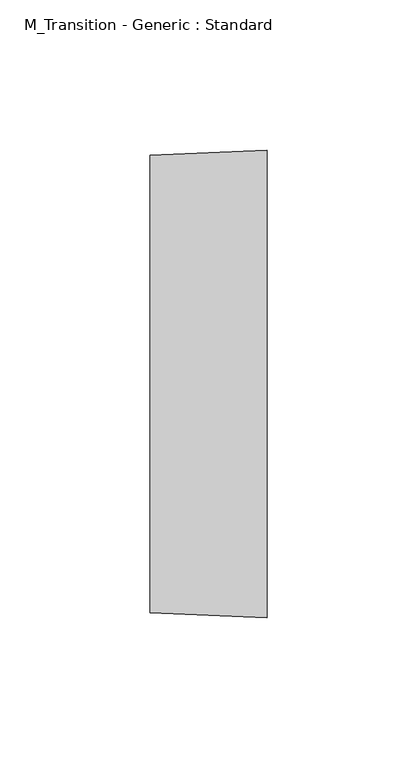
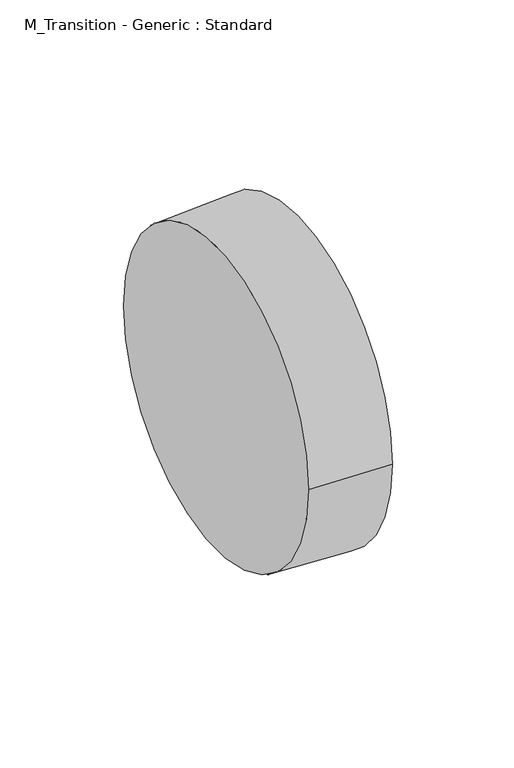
"""IFC4 building model written with IfcOpenShell, lengths in millimetres: pipe fitting geometry, M_Transition - Generic : Standard."""

from ifc_helpers import new_model, si_unit, frame, origin, place, context, project, spatial, polyline, circle_curve, source, transform, mapped, element, save
from ifc_brep_helpers import plane_surface, revolved_surface, advanced_brep


def m_transition_generic_standard_cf1901ec(model_context):
    return source(origin(), model_context, "Body", "AdvancedBrep", [
        advanced_brep(
        [(38.89375, -77.7875, 0.0), (38.89375, 77.7875, 0.0), (0.0, -76.1875, 0.0), (0.0, 76.1875, 0.0)],
        [
            (0, 1, circle_curve(frame((38.89375, 0.0, 0.0), z_axis=(1.0, 0.0, 0.0), x_axis=(0.0, -1.0, 0.0)), 77.7875)),
            (1, 0, circle_curve(frame((38.89375, 0.0, 0.0), z_axis=(1.0, 0.0, 0.0), x_axis=(0.0, 1.0, 0.0)), 77.7875)),
            (2, 3, circle_curve(frame((0.0, 0.0, 0.0), z_axis=(-1.0, 0.0, 0.0), x_axis=(0.0, 1.0, 0.0)), 76.1875)),
            (3, 2, circle_curve(frame((0.0, 0.0, 0.0), z_axis=(-1.0, 0.0, 0.0), x_axis=(0.0, -1.0, 0.0)), 76.1875)),
            (3, 1),
            (0, 2),
        ],
        [
            plane_surface(frame((38.89375, 0.0, 0.0), z_axis=(1.0, 0.0, 0.0), x_axis=(0.0, 0.0, -1.0))),
            plane_surface(frame((0.0, 0.0, 0.0), z_axis=(-1.0, 0.0, 0.0), x_axis=(0.0, 0.0, -1.0))),
            revolved_surface(polyline([(0.0, 76.1874999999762, 0.0), (38.893749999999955, 77.7875, 0.0)]), (-1852.0109863, 0.0, 0.0), (1.0, 0.0, 0.0)),
            revolved_surface(polyline([(0.0, -76.1874999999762, 0.0), (38.893749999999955, -77.7875, 0.0)]), (-1852.0109863, 0.0, 0.0), (1.0, 0.0, 0.0)),
        ],
        [
            (0, [[1, 2]]),
            (1, [[3, 4]]),
            (2, [[-4, 5, -1, 6]]),
            (3, [[-3, -6, -2, -5]]),
        ],
    ),
        advanced_brep(
        [(38.89375, -77.7875, 0.0), (38.89375, 77.7875, 0.0), (0.0, -76.1875, 0.0), (0.0, 76.1875, 0.0)],
        [
            (0, 1, circle_curve(frame((38.89375, 0.0, 0.0), z_axis=(1.0, 0.0, 0.0), x_axis=(0.0, -1.0, 0.0)), 77.7875)),
            (1, 0, circle_curve(frame((38.89375, 0.0, 0.0), z_axis=(1.0, 0.0, 0.0), x_axis=(0.0, 1.0, 0.0)), 77.7875)),
            (2, 3, circle_curve(frame((0.0, 0.0, 0.0), z_axis=(-1.0, 0.0, 0.0), x_axis=(0.0, 1.0, 0.0)), 76.1875)),
            (3, 2, circle_curve(frame((0.0, 0.0, 0.0), z_axis=(-1.0, 0.0, 0.0), x_axis=(0.0, -1.0, 0.0)), 76.1875)),
            (3, 1),
            (0, 2),
        ],
        [
            plane_surface(frame((38.89375, 0.0, 0.0), z_axis=(1.0, 0.0, 0.0), x_axis=(0.0, 0.0, -1.0))),
            plane_surface(frame((0.0, 0.0, 0.0), z_axis=(-1.0, 0.0, 0.0), x_axis=(0.0, 0.0, -1.0))),
            revolved_surface(polyline([(0.0, 76.1874999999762, 0.0), (38.893749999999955, 77.7875, 0.0)]), (-1852.0109863, 0.0, 0.0), (1.0, 0.0, 0.0)),
            revolved_surface(polyline([(0.0, -76.1874999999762, 0.0), (38.893749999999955, -77.7875, 0.0)]), (-1852.0109863, 0.0, 0.0), (1.0, 0.0, 0.0)),
        ],
        [
            (0, [[1, 2]]),
            (1, [[3, 4]]),
            (2, [[-4, 5, -1, 6]]),
            (3, [[-3, -6, -2, -5]]),
        ],
    ),
    ])


if __name__ == "__main__":
    model = new_model("IFC4")
    model_context = context("Model", 3, world=origin())
    ifc_project = project(units=[si_unit("LENGTHUNIT", "METRE", prefix="MILLI")], contexts=[model_context])
    site = spatial("IfcSite", under=ifc_project)
    building = spatial("IfcBuilding", under=site)
    placement = place(None, origin())
    m_transition_generic_standard_shape = m_transition_generic_standard_cf1901ec(model_context)
    element("IfcPipeFitting", 1, ObjectType="M_Transition - Generic : Standard", at=placement, inside=building, context=model_context, shape_type="MappedRepresentation", body=[
        mapped(m_transition_generic_standard_shape, transform((0.0, 0.0, 0.0), x_axis=(1.0, 0.0, 0.0), y_axis=(0.0, 1.0, 0.0), z_axis=(0.0, 0.0, 1.0))),
    ])
    save(model, "model.ifc")
